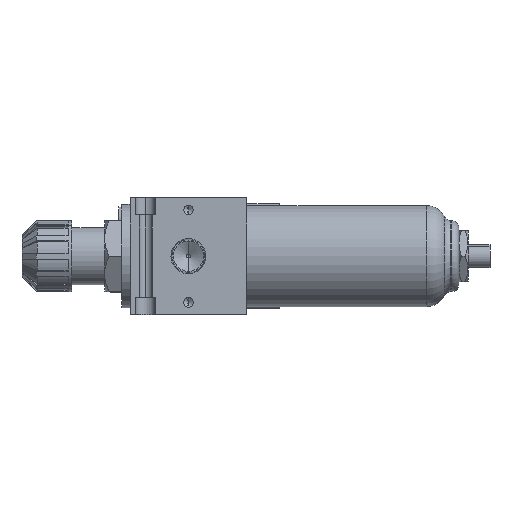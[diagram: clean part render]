
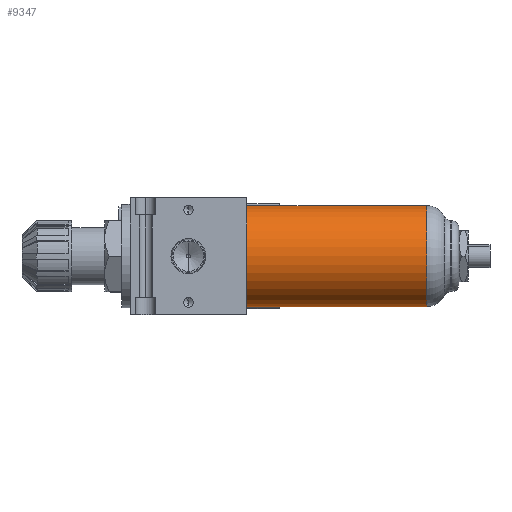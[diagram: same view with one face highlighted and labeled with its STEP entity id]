
A CAD part, left-side view. The second image highlights one B-rep face of the part: STEP entity #9347.
In plain terms, the highlighted cylindrical face has radius 17.75 mm (diameter 35.5 mm), a partial arc.
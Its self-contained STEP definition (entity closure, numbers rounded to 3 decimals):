
#359 = FACE_OUTER_BOUND ( 'NONE', #5566, .T. ) ;
#964 = CARTESIAN_POINT ( 'NONE',  ( 0., 0., 17.75 ) ) ;
#2755 = LINE ( 'NONE', #22005, #3449 ) ;
#3220 = CARTESIAN_POINT ( 'NONE',  ( 0., -63.222, 0. ) ) ;
#3292 = CARTESIAN_POINT ( 'NONE',  ( 0., -70., 0. ) ) ;
#3449 = VECTOR ( 'NONE', #7045, 1000. ) ;
#5566 = EDGE_LOOP ( 'NONE', ( #17235, #14192, #25229, #14812 ) ) ;
#7000 = DIRECTION ( 'NONE',  ( 0., 1., 0. ) ) ;
#7045 = DIRECTION ( 'NONE',  ( 0., 1., 0. ) ) ;
#7419 = DIRECTION ( 'NONE',  ( 0., 0., 1. ) ) ;
#9237 = DIRECTION ( 'NONE',  ( 0., 0., 1. ) ) ;
#9347 = ADVANCED_FACE ( 'NONE', ( #359 ), #14752, .T. ) ;
#9501 = DIRECTION ( 'NONE',  ( 0., 1., 0. ) ) ;
#10249 = VERTEX_POINT ( 'NONE', #20920 ) ;
#10545 = EDGE_CURVE ( 'NONE', #20858, #11037, #17429, .T. ) ;
#11037 = VERTEX_POINT ( 'NONE', #19723 ) ;
#11053 = EDGE_CURVE ( 'NONE', #20858, #10249, #2755, .T. ) ;
#11997 = DIRECTION ( 'NONE',  ( 0., 1., 0. ) ) ;
#12264 = AXIS2_PLACEMENT_3D ( 'NONE', #3292, #11997, #7419 ) ;
#12265 = VECTOR ( 'NONE', #12429, 1000. ) ;
#12429 = DIRECTION ( 'NONE',  ( 0., 1., 0. ) ) ;
#13096 = CIRCLE ( 'NONE', #14734, 17.75 ) ;
#14192 = ORIENTED_EDGE ( 'NONE', *, *, #10545, .T. ) ;
#14272 = LINE ( 'NONE', #27354, #12265 ) ;
#14734 = AXIS2_PLACEMENT_3D ( 'NONE', #22218, #7000, #9237 ) ;
#14752 = CYLINDRICAL_SURFACE ( 'NONE', #12264, 17.75 ) ;
#14812 = ORIENTED_EDGE ( 'NONE', *, *, #27056, .F. ) ;
#15356 = CARTESIAN_POINT ( 'NONE',  ( 0., -63.222, -17.75 ) ) ;
#15639 = EDGE_CURVE ( 'NONE', #11037, #18660, #14272, .T. ) ;
#17235 = ORIENTED_EDGE ( 'NONE', *, *, #11053, .F. ) ;
#17429 = CIRCLE ( 'NONE', #27437, 17.75 ) ;
#18660 = VERTEX_POINT ( 'NONE', #964 ) ;
#19723 = CARTESIAN_POINT ( 'NONE',  ( 0., -63.222, 17.75 ) ) ;
#20858 = VERTEX_POINT ( 'NONE', #15356 ) ;
#20920 = CARTESIAN_POINT ( 'NONE',  ( 0., 0., -17.75 ) ) ;
#22005 = CARTESIAN_POINT ( 'NONE',  ( 0., -70., -17.75 ) ) ;
#22218 = CARTESIAN_POINT ( 'NONE',  ( 0., 0., 0. ) ) ;
#25229 = ORIENTED_EDGE ( 'NONE', *, *, #15639, .T. ) ;
#26758 = DIRECTION ( 'NONE',  ( 0., 0., -1. ) ) ;
#27056 = EDGE_CURVE ( 'NONE', #10249, #18660, #13096, .T. ) ;
#27354 = CARTESIAN_POINT ( 'NONE',  ( 0., -70., 17.75 ) ) ;
#27437 = AXIS2_PLACEMENT_3D ( 'NONE', #3220, #9501, #26758 ) ;
